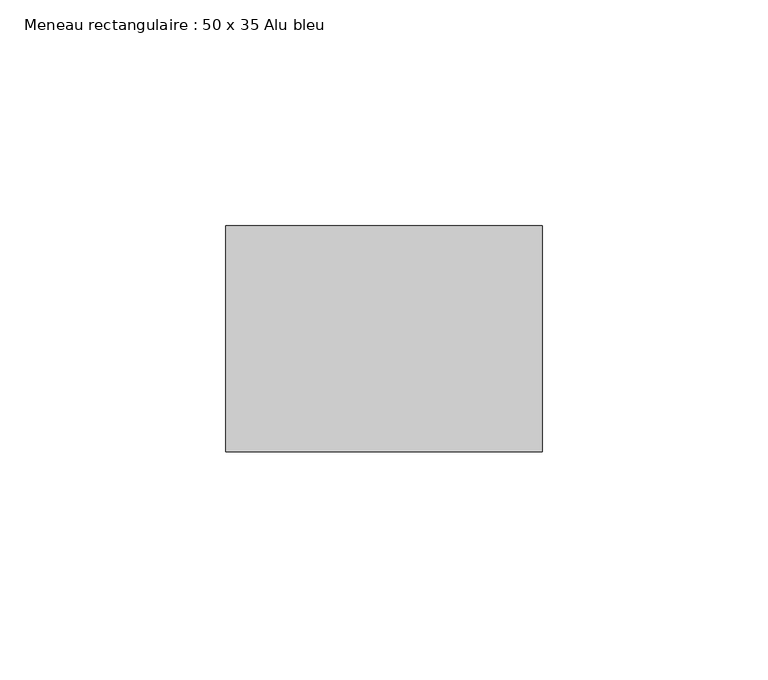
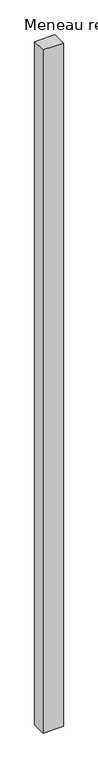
"""IFC4 building model written with IfcOpenShell, lengths in millimetres: member geometry, Meneau rectangulaire : 50 x 35 Alu bleu."""

from ifc_helpers import new_model, si_unit, frame, origin, place, context, project, spatial, polyline, outline, extrude, source, transform, mapped, element, save


def meneau_rectangulaire_50_x_35_alu_bleu_fe5932fb(model_context):
    return source(origin(), model_context, "Body", "SweptSolid", [
        extrude(outline(polyline([(0.0, 0.0), (0.0, -50.0), (-70.0, -50.0), (-70.0, 0.0), (0.0, 0.0)])), frame((0.0, 0.0, -2495.0543187), z_axis=(0.0, 0.0, 1.0), x_axis=(1.0, 0.0, 0.0)), (0.0, 0.0, 1.0), 2495.0543187),
    ])


if __name__ == "__main__":
    model = new_model("IFC4")
    model_context = context("Model", 3, world=origin())
    ifc_project = project(units=[si_unit("LENGTHUNIT", "METRE", prefix="MILLI")], contexts=[model_context])
    site = spatial("IfcSite", under=ifc_project)
    building = spatial("IfcBuilding", under=site)
    placement = place(None, origin())
    meneau_rectangulaire_50_x_35_alu_bleu_shape = meneau_rectangulaire_50_x_35_alu_bleu_fe5932fb(model_context)
    element("IfcMember", 1, ObjectType="Meneau rectangulaire : 50 x 35 Alu bleu", at=placement, inside=building, context=model_context, shape_type="MappedRepresentation", body=[
        mapped(meneau_rectangulaire_50_x_35_alu_bleu_shape, transform((0.0, 0.0, 0.0), x_axis=(1.0, 0.0, 0.0), y_axis=(0.0, 1.0, 0.0), z_axis=(0.0, 0.0, 1.0))),
    ])
    save(model, "model.ifc")
